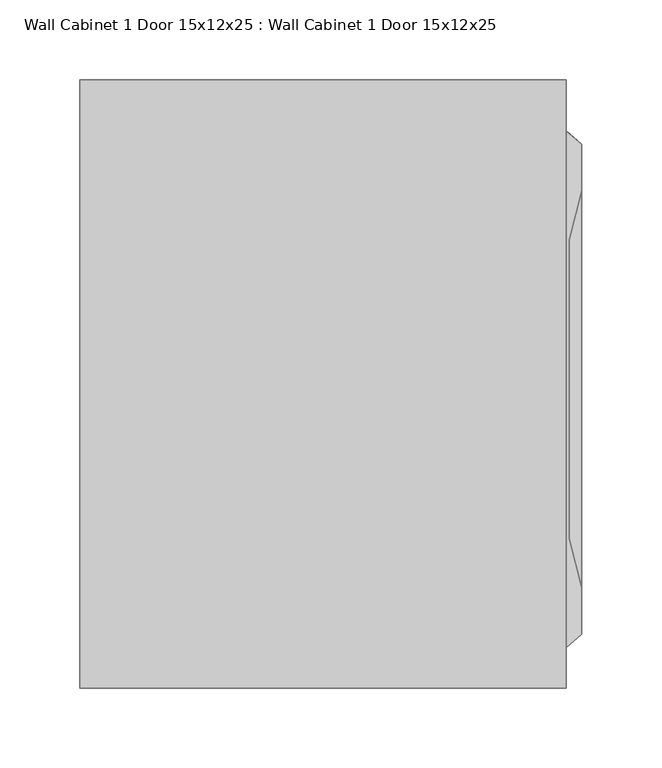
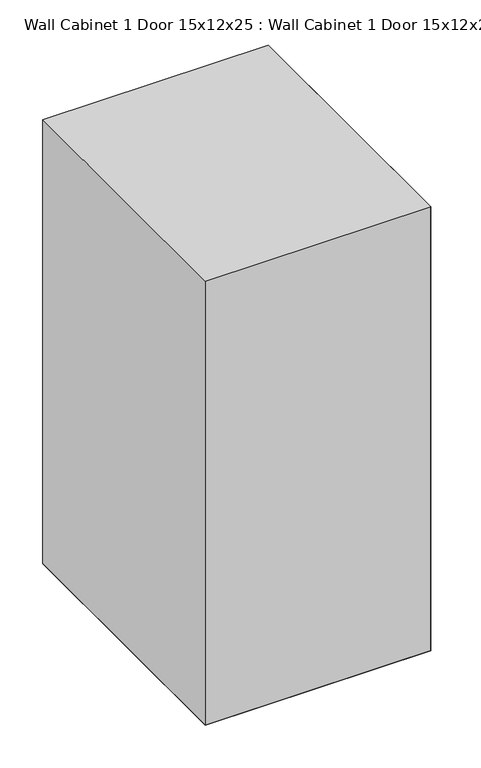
"""IFC4 building model written with IfcOpenShell, lengths in millimetres: furniture geometry, Wall Cabinet 1 Door 15x12x25 : Wall Cabinet 1 Door 15x12x25."""

from ifc_helpers import new_model, si_unit, origin, place, context, project, spatial, triangles, source, transform, mapped, element, save


def wall_cabinet_1_door_15x12x25_wall_cabinet_1_door_15x12x25_f00a39ec(model_context):
    return source(origin(), model_context, "Body", "Tessellation", [
        triangles([(314.4926497, 33.6782677, 601.126571), (304.8, 25.4126998, 609.6), (304.8, 79.3607718, 609.6), (314.4926497, 84.8804022, 601.126571), (314.4926497, 136.054804, 601.126571), (304.8, 133.2811179, 609.6), (304.8, 187.201455, 609.6), (314.4926497, 187.2291967, 601.126571), (304.8, 241.1495247, 609.6), (314.4926497, 238.4035985, 601.126571), (304.8, 295.0698708, 609.6), (314.4926497, 289.5779822, 601.126571), (304.8, 348.9902169, 609.6), (314.4926497, 340.752384, 601.126571), (314.4926497, 33.6782677, 33.7921597), (304.8, 25.4126998, 25.3796804), (314.4926497, 84.8804022, 33.7921597), (304.8, 79.3607718, 25.3796804), (314.4926497, 136.054804, 33.7921597), (304.8, 133.2811179, 25.3796804), (314.4926497, 187.2291967, 33.7921597), (304.8, 187.201455, 25.3796804), (304.8, 241.1495247, 25.3796804), (304.8, 295.0698708, 25.3796804), (314.4926497, 289.5779822, 33.7921597), (314.4926497, 238.4035985, 33.7921597), (304.8, 348.9902169, 25.3796804), (314.4926497, 340.752384, 33.7921597)], [[4, 2, 1], [3, 2, 4], [4, 6, 3], [5, 6, 4], [5, 7, 6], [8, 7, 5], [8, 9, 7], [10, 9, 8], [10, 11, 9], [12, 11, 10], [12, 13, 11], [14, 13, 12], [17, 16, 15], [17, 18, 16], [20, 18, 17], [17, 19, 20], [22, 20, 19], [19, 21, 22], [26, 22, 21], [26, 23, 22], [24, 23, 26], [26, 25, 24], [27, 24, 25], [25, 28, 27]], closed=False),
        triangles([(306.5068726, 124.7104474, 85.4252817), (306.5068726, 125.7089693, 518.1295295), (306.5068726, 155.9698221, 85.4252817), (306.5068726, 153.5567063, 538.7339767), (306.5068726, 187.201455, 85.4252817), (306.5068726, 220.8461855, 538.7339767), (306.5068726, 187.201455, 545.3481442), (306.5068726, 218.4608115, 85.4252817), (306.5068726, 249.7202043, 85.4252817), (306.5068726, 280.9518372, 85.4252817), (306.5068726, 248.7216824, 518.1295295), (306.5068726, 281.0350443, 507.0347852), (314.4926497, 311.5177949, 527.029713), (314.4926497, 311.490035, 63.6625612), (314.4926497, 340.752384, 33.7921597), (314.4926497, 340.752384, 601.126571), (306.5068726, 93.3678565, 507.0347852), (306.5068726, 93.4788054, 85.4252817), (314.4926497, 62.8851151, 527.029713), (314.4926497, 62.940594, 63.6625612), (314.4926497, 33.6505282, 601.126571), (304.8, 25.4126998, 609.6), (314.4926497, 33.6505282, 33.7921597), (304.8, 25.4126998, 25.3796804)], [[18, 1, 17], [2, 17, 1], [1, 3, 2], [4, 2, 3], [3, 5, 4], [7, 4, 5], [5, 8, 7], [6, 7, 8], [8, 9, 6], [11, 6, 9], [9, 10, 11], [12, 11, 10], [10, 13, 12], [14, 13, 10], [14, 15, 13], [16, 13, 15], [19, 18, 17], [19, 20, 18], [23, 20, 19], [19, 21, 23], [22, 23, 21], [22, 24, 23]], closed=False),
        triangles([(314.4926497, 340.752384, 601.126571), (314.4926497, 340.752384, 33.7921597), (304.8, 348.9902169, 609.6), (304.8, 348.9902169, 25.3796804)], [[2, 3, 1], [4, 3, 2]], closed=False),
        triangles([(314.4926497, 33.6782677, 601.126571), (314.4926497, 62.8573778, 527.029713), (314.4926497, 84.8804022, 601.126571), (314.4926497, 136.054804, 601.126571), (314.4926497, 187.2291967, 601.126571), (314.4926497, 187.201455, 571.4390662), (314.4926497, 231.0255969, 562.843697), (314.4926497, 238.4035985, 601.126571), (314.4926497, 289.5779822, 601.126571), (314.4926497, 311.5177949, 527.029713), (314.4926497, 340.752384, 601.126571), (306.5068726, 93.3678565, 507.0347852), (306.5068726, 125.7089693, 518.1295295), (314.4926497, 106.3486776, 537.3014697), (306.5068726, 153.5567063, 538.7339767), (314.4926497, 143.377304, 562.843697), (306.5068726, 187.201455, 545.3481442), (306.5068726, 220.8461855, 538.7339767), (314.4926497, 268.0264997, 537.3014697), (306.5068726, 248.7216824, 518.1295295), (306.5068726, 281.0350443, 507.0347852), (306.5068726, 93.4788054, 85.4252817), (306.5068726, 124.7104474, 85.4252817), (306.5068726, 155.9698221, 85.4252817), (306.5068726, 187.201455, 85.4252817), (314.4926497, 228.6124992, 63.6625612), (306.5068726, 218.4608115, 85.4252817), (306.5068726, 249.7202043, 85.4252817), (314.4926497, 270.0512671, 63.6625612), (306.5068726, 280.9518372, 85.4252817), (314.4926497, 311.490035, 63.6625612), (314.4926497, 62.8573778, 63.6625612), (314.4926497, 33.6782677, 33.7921597), (314.4926497, 84.8804022, 33.7921597), (314.4926497, 104.2961502, 63.6625612), (314.4926497, 145.7349363, 63.6625612), (314.4926497, 136.054804, 33.7921597), (314.4926497, 187.2291967, 33.7921597), (314.4926497, 238.4035985, 33.7921597), (314.4926497, 187.1737132, 63.6625612), (314.4926497, 289.5779822, 33.7921597), (314.4926497, 340.752384, 33.7921597)], [[2, 14, 1], [3, 1, 14], [14, 16, 3], [4, 3, 16], [16, 6, 4], [5, 4, 6], [6, 7, 5], [8, 5, 7], [7, 19, 8], [9, 8, 19], [19, 10, 9], [11, 9, 10], [12, 14, 2], [13, 14, 12], [15, 14, 13], [16, 14, 15], [15, 6, 16], [17, 6, 15], [18, 6, 17], [7, 6, 18], [18, 19, 7], [20, 19, 18], [21, 19, 20], [10, 19, 21], [32, 23, 22], [35, 23, 32], [35, 24, 23], [36, 24, 35], [36, 40, 24], [25, 24, 40], [40, 27, 25], [26, 27, 40], [26, 28, 27], [29, 28, 26], [29, 30, 28], [31, 30, 29], [33, 34, 32], [35, 32, 34], [34, 37, 35], [36, 35, 37], [37, 38, 36], [40, 36, 38], [38, 39, 40], [26, 40, 39], [39, 41, 26], [29, 26, 41], [41, 42, 29], [31, 29, 42]], closed=False),
        triangles([(0.0, 381.0, 0.0), (304.8, 381.0, 0.0), (304.8, 0.0, 0.0), (0.0, 0.0, 0.0), (304.8, 0.0, 634.9999758), (304.8, 381.0, 634.9999758), (0.0, 381.0, 634.9999758), (0.0, 0.0, 634.9999758)], [[2, 1, 4], [4, 3, 2], [6, 7, 5], [8, 5, 7]], closed=False),
        triangles([(304.8, 0.0, 0.0), (304.8, 381.0, 0.0), (304.8, 381.0, 634.9999758), (304.8, 0.0, 634.9999758), (0.0, 381.0, 634.9999758), (0.0, 381.0, 0.0), (0.0, 0.0, 0.0), (0.0, 0.0, 634.9999758)], [[1, 2, 4], [3, 4, 2], [7, 6, 5], [5, 8, 7]], closed=False),
        triangles([(0.0, 0.0, 634.9999758), (0.0, 0.0, 0.0), (304.8, 0.0, 0.0), (304.8, 0.0, 634.9999758), (304.8, 381.0, 634.9999758), (304.8, 381.0, 0.0), (0.0, 381.0, 0.0), (0.0, 381.0, 634.9999758)], [[3, 2, 1], [1, 4, 3], [6, 7, 5], [8, 5, 7]], closed=False),
    ])


if __name__ == "__main__":
    model = new_model("IFC4")
    model_context = context("Model", 3, world=origin())
    ifc_project = project(units=[si_unit("LENGTHUNIT", "METRE", prefix="MILLI")], contexts=[model_context])
    site = spatial("IfcSite", under=ifc_project)
    building = spatial("IfcBuilding", under=site)
    placement = place(None, origin())
    wall_cabinet_1_door_15x12x25_wall_cabinet_1_door_15x12x25_shape = wall_cabinet_1_door_15x12x25_wall_cabinet_1_door_15x12x25_f00a39ec(model_context)
    element("IfcFurniture", 1, ObjectType="Wall Cabinet 1 Door 15x12x25 : Wall Cabinet 1 Door 15x12x25", at=placement, inside=building, context=model_context, shape_type="MappedRepresentation", body=[
        mapped(wall_cabinet_1_door_15x12x25_wall_cabinet_1_door_15x12x25_shape, transform((0.0, 0.0, 0.0), x_axis=(1.0, 0.0, 0.0), y_axis=(0.0, 1.0, 0.0), z_axis=(0.0, 0.0, 1.0))),
    ])
    save(model, "model.ifc")
